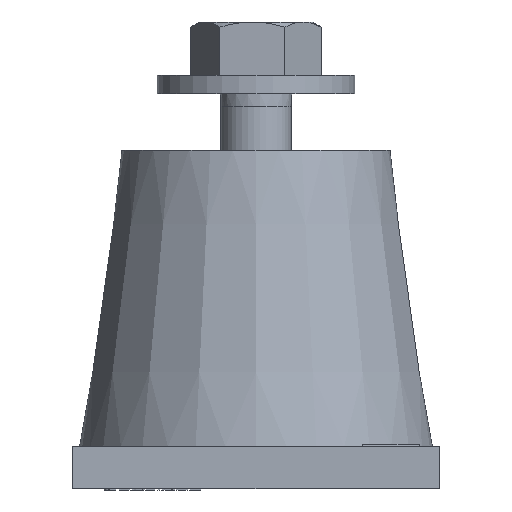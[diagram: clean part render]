
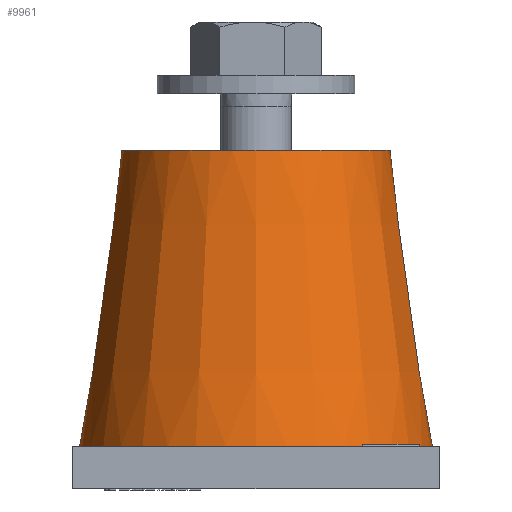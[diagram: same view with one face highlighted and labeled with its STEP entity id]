
A CAD part, front view. The second image highlights one B-rep face of the part: STEP entity #9961.
In plain terms, the highlighted conical face has half-angle 8.13 degrees and reference radius 17.462 mm.
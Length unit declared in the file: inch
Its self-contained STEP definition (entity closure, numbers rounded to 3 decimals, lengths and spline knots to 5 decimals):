
#5930=CARTESIAN_POINT('',(0.78125,0.,0.1875));
#5931=VERTEX_POINT('',#5930);
#5932=CARTESIAN_POINT('',(0.,0.,0.1875));
#5933=DIRECTION('',(0.0,0.0,-1.0));
#5934=DIRECTION('',(1.0,0.0,0.0));
#5935=AXIS2_PLACEMENT_3D('',#5932,#5933,#5934);
#5936=CIRCLE('',#5935,0.78125);
#5937=EDGE_CURVE('',#5931,#5931,#5936,.T.);
#9935=CARTESIAN_POINT('',(0.59375,0.,1.5));
#9936=VERTEX_POINT('',#9935);
#9937=CARTESIAN_POINT('',(0.,0.,1.5));
#9938=DIRECTION('',(0.0,0.0,-1.0));
#9939=DIRECTION('',(1.0,0.0,0.0));
#9940=AXIS2_PLACEMENT_3D('',#9937,#9938,#9939);
#9941=CIRCLE('',#9940,0.59375);
#9942=EDGE_CURVE('',#9936,#9936,#9941,.T.);
#9950=CARTESIAN_POINT('',(0.,0.,0.84375));
#9951=DIRECTION('',(0.0,0.0,-1.0));
#9952=DIRECTION('',(1.0,0.0,0.0));
#9953=AXIS2_PLACEMENT_3D('',#9950,#9951,#9952);
#9954=CONICAL_SURFACE('',#9953,0.6875,8.13);
#9955=ORIENTED_EDGE('',*,*,#5937,.F.);
#9956=EDGE_LOOP('',(#9955));
#9957=FACE_OUTER_BOUND('',#9956,.T.);
#9958=ORIENTED_EDGE('',*,*,#9942,.T.);
#9959=EDGE_LOOP('',(#9958));
#9960=FACE_BOUND('',#9959,.T.);
#9961=ADVANCED_FACE('',(#9957,#9960),#9954,.T.);
